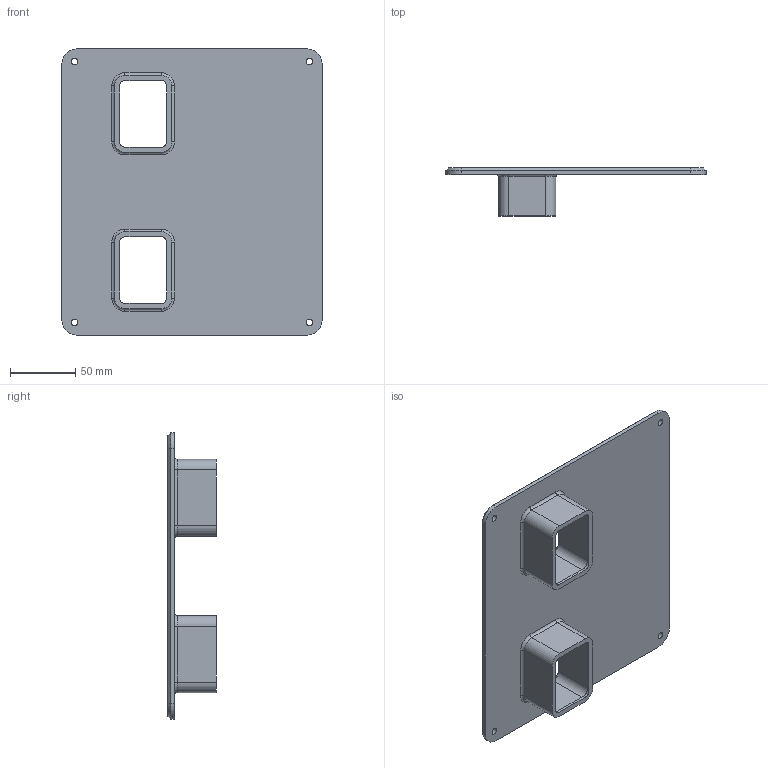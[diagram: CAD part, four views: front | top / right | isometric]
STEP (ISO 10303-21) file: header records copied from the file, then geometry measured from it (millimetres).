
FILE_DESCRIPTION(/* description */ (''),/* implementation_level */ '2;1');
FILE_NAME(/* name */ 'Shoe dryer lid.stp',/* time_stamp */ '2026-06-08T20:39:08-05:00',/* author */ ('hardi'),/* organization */ (''),/* preprocessor_version */ 'ST-DEVELOPER v20.1',/* originating_system */ 'Autodesk Inventor 2026',/* authorisation */ '');
FILE_SCHEMA (('AUTOMOTIVE_DESIGN { 1 0 10303 214 3 1 1 }'));
Length unit declared in the file: millimetre
Products named in the file (1): Shoe dryer lower body
Bounding box: 200 x 37 x 220 mm (x, y, z)
Volume: 220412.3 mm3; surface area: 108576.5 mm2
Topology: 1 solids, 1 shells, 106 faces, 260 edges, 160 vertices
Faces by surface type: plane 46, cylinder 40, cone 12, torus 8
Full cylindrical faces by diameter (mm): 5 x4
Entity records: 3180 total; most frequent: DIRECTION 574, CARTESIAN_POINT 527, ORIENTED_EDGE 520, EDGE_CURVE 260, AXIS2_PLACEMENT_3D 207, LINE 160, VECTOR 160, VERTEX_POINT 160
